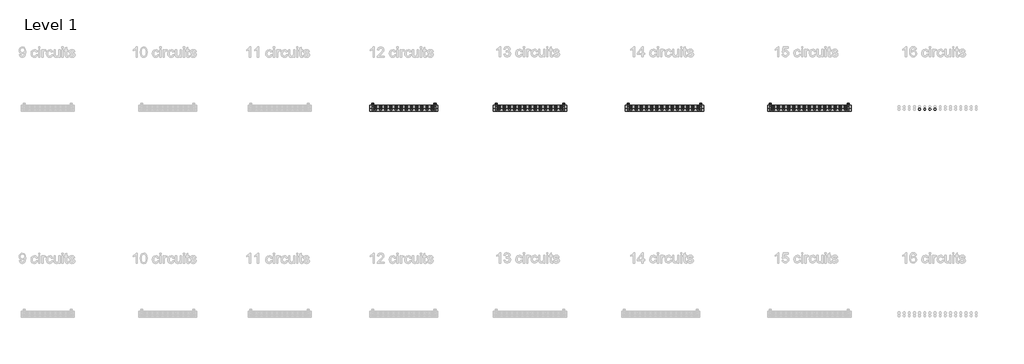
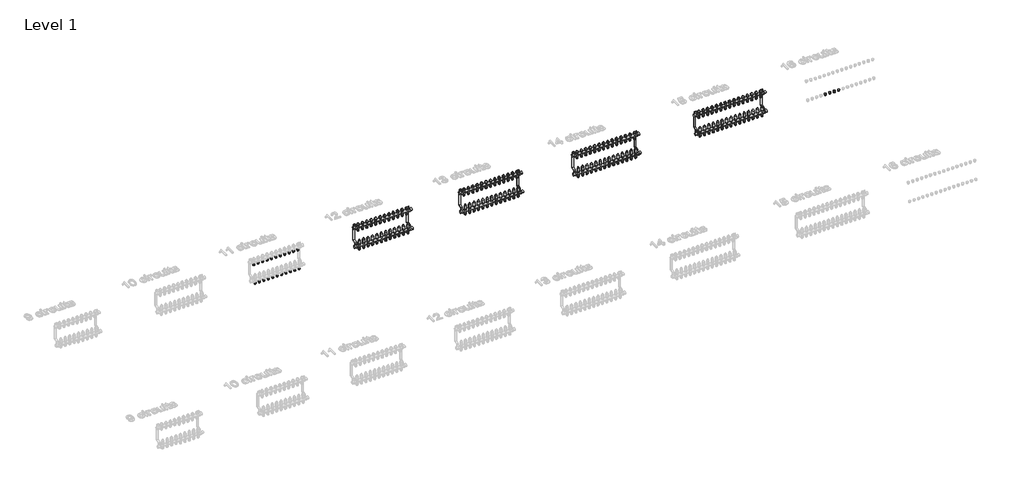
# One storey, part 4 of 13: 134 pipe fittings, 4 valves.
"""IFC4 building model written with IfcOpenShell, lengths in millimetres."""

from ifc_helpers import new_model, si_unit, origin, place, context, project, spatial, transform, mapped, element, save
from components import pipe_fitting_03c6499f, valve_b043caab, valve_d1a48dd4, valve_8c27288c, valve_323f5917, valve_2908c385, valve_c6b07a0e, valve_afcc5f03, valve_d5daf2db, valve_eef75e3c, valve_ba84b301, valve_6797e1c4, valve_e0eb0583, valve_b42ebe50, valve_7d993025, valve_5755080d, valve_f9b138b1

model = new_model("IFC4")

# Units and contexts
model_context = context("Model", 3, world=origin())
ifc_project = project(units=[si_unit("LENGTHUNIT", "METRE", prefix="MILLI")], contexts=[model_context])

# Site, building, storey
site = spatial("IfcSite", under=ifc_project)
building = spatial("IfcBuilding", under=site)
storey = spatial("IfcBuildingStorey", under=building, Name="Level 1", Elevation=0.0)

# Pipe fittings
placement = place(None, origin())
pipe_fitting_shape = pipe_fitting_03c6499f(model_context)
element("IfcPipeFitting", 1, ObjectType="Euroconus screwing for multilayer pipes - Manifold FT : Euroconus screwing for multilayer pipes - Manifold FT", at=placement, inside=storey, context=model_context, shape_type="MappedRepresentation", body=[
    mapped(pipe_fitting_shape, transform((10807.2354504, 1582.3227774, -37.0816103), x_axis=(0.0, 0.0, -1.0), y_axis=(0.0, 1.0000000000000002, 0.0), z_axis=(1.0000000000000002, 0.0, 0.0))),
])
element("IfcPipeFitting", 2, ObjectType="Euroconus screwing for multilayer pipes - Manifold FT : Euroconus screwing for multilayer pipes - Manifold FT", at=placement, inside=storey, context=model_context, shape_type="MappedRepresentation", body=[
    mapped(pipe_fitting_shape, transform((10757.2354504, 1582.3227774, -37.0816103), x_axis=(0.0, 0.0, -1.0), y_axis=(0.0, 1.0000000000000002, 0.0), z_axis=(1.0000000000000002, 0.0, 0.0))),
])
element("IfcPipeFitting", 3, ObjectType="Euroconus screwing for multilayer pipes - Manifold FT : Euroconus screwing for multilayer pipes - Manifold FT", at=placement, inside=storey, context=model_context, shape_type="MappedRepresentation", body=[
    mapped(pipe_fitting_shape, transform((10707.2354504, 1582.3227774, -37.0816103), x_axis=(0.0, 0.0, -1.0), y_axis=(0.0, 1.0000000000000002, 0.0), z_axis=(1.0000000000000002, 0.0, 0.0))),
])
element("IfcPipeFitting", 4, ObjectType="Euroconus screwing for multilayer pipes - Manifold FT : Euroconus screwing for multilayer pipes - Manifold FT", at=placement, inside=storey, context=model_context, shape_type="MappedRepresentation", body=[
    mapped(pipe_fitting_shape, transform((10657.2354504, 1582.3227774, -37.0816103), x_axis=(0.0, 0.0, -1.0), y_axis=(0.0, 1.0000000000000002, 0.0), z_axis=(1.0000000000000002, 0.0, 0.0))),
])
element("IfcPipeFitting", 5, ObjectType="Euroconus screwing for multilayer pipes - Manifold FT : Euroconus screwing for multilayer pipes - Manifold FT", at=placement, inside=storey, context=model_context, shape_type="MappedRepresentation", body=[
    mapped(pipe_fitting_shape, transform((10607.2354504, 1582.3227774, -37.0816103), x_axis=(0.0, 0.0, -1.0), y_axis=(0.0, 1.0000000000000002, 0.0), z_axis=(1.0000000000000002, 0.0, 0.0))),
])
element("IfcPipeFitting", 6, ObjectType="Euroconus screwing for multilayer pipes - Manifold FT : Euroconus screwing for multilayer pipes - Manifold FT", at=placement, inside=storey, context=model_context, shape_type="MappedRepresentation", body=[
    mapped(pipe_fitting_shape, transform((10557.2354504, 1582.3227774, -37.0816103), x_axis=(0.0, 0.0, -1.0), y_axis=(0.0, 1.0000000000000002, 0.0), z_axis=(1.0000000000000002, 0.0, 0.0))),
])
element("IfcPipeFitting", 7, ObjectType="Euroconus screwing for multilayer pipes - Manifold FT : Euroconus screwing for multilayer pipes - Manifold FT", at=placement, inside=storey, context=model_context, shape_type="MappedRepresentation", body=[
    mapped(pipe_fitting_shape, transform((10507.2354504, 1582.3227774, -37.0816103), x_axis=(0.0, 0.0, -1.0), y_axis=(0.0, 1.0000000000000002, 0.0), z_axis=(1.0000000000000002, 0.0, 0.0))),
])
element("IfcPipeFitting", 8, ObjectType="Euroconus screwing for multilayer pipes - Manifold FT : Euroconus screwing for multilayer pipes - Manifold FT", at=placement, inside=storey, context=model_context, shape_type="MappedRepresentation", body=[
    mapped(pipe_fitting_shape, transform((10457.2354504, 1582.3227774, -37.0816103), x_axis=(0.0, 0.0, -1.0), y_axis=(0.0, 1.0000000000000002, 0.0), z_axis=(1.0000000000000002, 0.0, 0.0))),
])
element("IfcPipeFitting", 9, ObjectType="Euroconus screwing for multilayer pipes - Manifold FT : Euroconus screwing for multilayer pipes - Manifold FT", at=placement, inside=storey, context=model_context, shape_type="MappedRepresentation", body=[
    mapped(pipe_fitting_shape, transform((10407.2354504, 1582.3227774, -37.0816103), x_axis=(0.0, 0.0, -1.0), y_axis=(0.0, 1.0000000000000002, 0.0), z_axis=(1.0000000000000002, 0.0, 0.0))),
])
element("IfcPipeFitting", 10, ObjectType="Euroconus screwing for multilayer pipes - Manifold FT : Euroconus screwing for multilayer pipes - Manifold FT", at=placement, inside=storey, context=model_context, shape_type="MappedRepresentation", body=[
    mapped(pipe_fitting_shape, transform((10857.2354504, 1582.3227774, -37.0816103), x_axis=(0.0, 0.0, -1.0), y_axis=(0.0, 1.0000000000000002, 0.0), z_axis=(1.0000000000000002, 0.0, 0.0))),
])
element("IfcPipeFitting", 11, ObjectType="Euroconus screwing for multilayer pipes - Manifold FT : Euroconus screwing for multilayer pipes - Manifold FT", at=placement, inside=storey, context=model_context, shape_type="MappedRepresentation", body=[
    mapped(pipe_fitting_shape, transform((10357.2354504, 1582.3227774, -37.0816103), x_axis=(0.0, 0.0, -1.0), y_axis=(0.0, 1.0000000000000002, 0.0), z_axis=(1.0000000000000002, 0.0, 0.0))),
])
element("IfcPipeFitting", 12, ObjectType="Euroconus screwing for multilayer pipes - Manifold FT : Euroconus screwing for multilayer pipes - Manifold FT", at=placement, inside=storey, context=model_context, shape_type="MappedRepresentation", body=[
    mapped(pipe_fitting_shape, transform((10807.2354504, 1607.3227774, 172.88733), x_axis=(0.0, 0.0, -1.0), y_axis=(0.0, 1.0000000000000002, 0.0), z_axis=(1.0000000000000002, 0.0, 0.0))),
])
element("IfcPipeFitting", 13, ObjectType="Euroconus screwing for multilayer pipes - Manifold FT : Euroconus screwing for multilayer pipes - Manifold FT", at=placement, inside=storey, context=model_context, shape_type="MappedRepresentation", body=[
    mapped(pipe_fitting_shape, transform((10757.2354504, 1607.3227774, 172.88733), x_axis=(0.0, 0.0, -1.0), y_axis=(0.0, 1.0000000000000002, 0.0), z_axis=(1.0000000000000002, 0.0, 0.0))),
])
element("IfcPipeFitting", 14, ObjectType="Euroconus screwing for multilayer pipes - Manifold FT : Euroconus screwing for multilayer pipes - Manifold FT", at=placement, inside=storey, context=model_context, shape_type="MappedRepresentation", body=[
    mapped(pipe_fitting_shape, transform((10707.2354504, 1607.3227774, 172.88733), x_axis=(0.0, 0.0, -1.0), y_axis=(0.0, 1.0000000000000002, 0.0), z_axis=(1.0000000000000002, 0.0, 0.0))),
])
element("IfcPipeFitting", 15, ObjectType="Euroconus screwing for multilayer pipes - Manifold FT : Euroconus screwing for multilayer pipes - Manifold FT", at=placement, inside=storey, context=model_context, shape_type="MappedRepresentation", body=[
    mapped(pipe_fitting_shape, transform((10657.2354504, 1607.3227774, 172.88733), x_axis=(0.0, 0.0, -1.0), y_axis=(0.0, 1.0000000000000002, 0.0), z_axis=(1.0000000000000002, 0.0, 0.0))),
])
element("IfcPipeFitting", 16, ObjectType="Euroconus screwing for multilayer pipes - Manifold FT : Euroconus screwing for multilayer pipes - Manifold FT", at=placement, inside=storey, context=model_context, shape_type="MappedRepresentation", body=[
    mapped(pipe_fitting_shape, transform((10607.2354504, 1607.3227774, 172.88733), x_axis=(0.0, 0.0, -1.0), y_axis=(0.0, 1.0000000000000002, 0.0), z_axis=(1.0000000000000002, 0.0, 0.0))),
])
element("IfcPipeFitting", 17, ObjectType="Euroconus screwing for multilayer pipes - Manifold FT : Euroconus screwing for multilayer pipes - Manifold FT", at=placement, inside=storey, context=model_context, shape_type="MappedRepresentation", body=[
    mapped(pipe_fitting_shape, transform((10557.2354504, 1607.3227774, 172.88733), x_axis=(0.0, 0.0, -1.0), y_axis=(0.0, 1.0000000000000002, 0.0), z_axis=(1.0000000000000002, 0.0, 0.0))),
])
element("IfcPipeFitting", 18, ObjectType="Euroconus screwing for multilayer pipes - Manifold FT : Euroconus screwing for multilayer pipes - Manifold FT", at=placement, inside=storey, context=model_context, shape_type="MappedRepresentation", body=[
    mapped(pipe_fitting_shape, transform((10507.2354504, 1607.3227774, 172.88733), x_axis=(0.0, 0.0, -1.0), y_axis=(0.0, 1.0000000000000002, 0.0), z_axis=(1.0000000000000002, 0.0, 0.0))),
])
element("IfcPipeFitting", 19, ObjectType="Euroconus screwing for multilayer pipes - Manifold FT : Euroconus screwing for multilayer pipes - Manifold FT", at=placement, inside=storey, context=model_context, shape_type="MappedRepresentation", body=[
    mapped(pipe_fitting_shape, transform((10457.2354504, 1607.3227774, 172.88733), x_axis=(0.0, 0.0, -1.0), y_axis=(0.0, 1.0000000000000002, 0.0), z_axis=(1.0000000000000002, 0.0, 0.0))),
])
element("IfcPipeFitting", 20, ObjectType="Euroconus screwing for multilayer pipes - Manifold FT : Euroconus screwing for multilayer pipes - Manifold FT", at=placement, inside=storey, context=model_context, shape_type="MappedRepresentation", body=[
    mapped(pipe_fitting_shape, transform((10407.2354504, 1607.3227774, 172.88733), x_axis=(0.0, 0.0, -1.0), y_axis=(0.0, 1.0000000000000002, 0.0), z_axis=(1.0000000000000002, 0.0, 0.0))),
])
element("IfcPipeFitting", 21, ObjectType="Euroconus screwing for multilayer pipes - Manifold FT : Euroconus screwing for multilayer pipes - Manifold FT", at=placement, inside=storey, context=model_context, shape_type="MappedRepresentation", body=[
    mapped(pipe_fitting_shape, transform((10857.2354504, 1607.3227774, 172.88733), x_axis=(0.0, 0.0, -1.0), y_axis=(0.0, 1.0000000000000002, 0.0), z_axis=(1.0000000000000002, 0.0, 0.0))),
])
element("IfcPipeFitting", 22, ObjectType="Euroconus screwing for multilayer pipes - Manifold FT : Euroconus screwing for multilayer pipes - Manifold FT", at=placement, inside=storey, context=model_context, shape_type="MappedRepresentation", body=[
    mapped(pipe_fitting_shape, transform((10357.2354504, 1607.3227774, 172.88733), x_axis=(0.0, 0.0, -1.0), y_axis=(0.0, 1.0000000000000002, 0.0), z_axis=(1.0000000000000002, 0.0, 0.0))),
])
element("IfcPipeFitting", 23, ObjectType="Euroconus screwing for multilayer pipes - Manifold FT : Euroconus screwing for multilayer pipes - Manifold FT", at=placement, inside=storey, context=model_context, shape_type="MappedRepresentation", body=[
    mapped(pipe_fitting_shape, transform((12037.2354504, 1582.3227774, -37.0816103), x_axis=(0.0, 0.0, -1.0), y_axis=(0.0, 1.0000000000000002, 0.0), z_axis=(1.0000000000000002, 0.0, 0.0))),
])
element("IfcPipeFitting", 24, ObjectType="Euroconus screwing for multilayer pipes - Manifold FT : Euroconus screwing for multilayer pipes - Manifold FT", at=placement, inside=storey, context=model_context, shape_type="MappedRepresentation", body=[
    mapped(pipe_fitting_shape, transform((11987.2354504, 1582.3227774, -37.0816103), x_axis=(0.0, 0.0, -1.0), y_axis=(0.0, 1.0000000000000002, 0.0), z_axis=(1.0000000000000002, 0.0, 0.0))),
])
element("IfcPipeFitting", 25, ObjectType="Euroconus screwing for multilayer pipes - Manifold FT : Euroconus screwing for multilayer pipes - Manifold FT", at=placement, inside=storey, context=model_context, shape_type="MappedRepresentation", body=[
    mapped(pipe_fitting_shape, transform((11937.2354504, 1582.3227774, -37.0816103), x_axis=(0.0, 0.0, -1.0), y_axis=(0.0, 1.0000000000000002, 0.0), z_axis=(1.0000000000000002, 0.0, 0.0))),
])
element("IfcPipeFitting", 26, ObjectType="Euroconus screwing for multilayer pipes - Manifold FT : Euroconus screwing for multilayer pipes - Manifold FT", at=placement, inside=storey, context=model_context, shape_type="MappedRepresentation", body=[
    mapped(pipe_fitting_shape, transform((11887.2354504, 1582.3227774, -37.0816103), x_axis=(0.0, 0.0, -1.0), y_axis=(0.0, 1.0000000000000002, 0.0), z_axis=(1.0000000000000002, 0.0, 0.0))),
])
element("IfcPipeFitting", 27, ObjectType="Euroconus screwing for multilayer pipes - Manifold FT : Euroconus screwing for multilayer pipes - Manifold FT", at=placement, inside=storey, context=model_context, shape_type="MappedRepresentation", body=[
    mapped(pipe_fitting_shape, transform((11837.2354504, 1582.3227774, -37.0816103), x_axis=(0.0, 0.0, -1.0), y_axis=(0.0, 1.0000000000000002, 0.0), z_axis=(1.0000000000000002, 0.0, 0.0))),
])
element("IfcPipeFitting", 28, ObjectType="Euroconus screwing for multilayer pipes - Manifold FT : Euroconus screwing for multilayer pipes - Manifold FT", at=placement, inside=storey, context=model_context, shape_type="MappedRepresentation", body=[
    mapped(pipe_fitting_shape, transform((11787.2354504, 1582.3227774, -37.0816103), x_axis=(0.0, 0.0, -1.0), y_axis=(0.0, 1.0000000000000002, 0.0), z_axis=(1.0000000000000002, 0.0, 0.0))),
])
element("IfcPipeFitting", 29, ObjectType="Euroconus screwing for multilayer pipes - Manifold FT : Euroconus screwing for multilayer pipes - Manifold FT", at=placement, inside=storey, context=model_context, shape_type="MappedRepresentation", body=[
    mapped(pipe_fitting_shape, transform((11737.2354504, 1582.3227774, -37.0816103), x_axis=(0.0, 0.0, -1.0), y_axis=(0.0, 1.0000000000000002, 0.0), z_axis=(1.0000000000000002, 0.0, 0.0))),
])
element("IfcPipeFitting", 30, ObjectType="Euroconus screwing for multilayer pipes - Manifold FT : Euroconus screwing for multilayer pipes - Manifold FT", at=placement, inside=storey, context=model_context, shape_type="MappedRepresentation", body=[
    mapped(pipe_fitting_shape, transform((11687.2354504, 1582.3227774, -37.0816103), x_axis=(0.0, 0.0, -1.0), y_axis=(0.0, 1.0000000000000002, 0.0), z_axis=(1.0000000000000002, 0.0, 0.0))),
])
element("IfcPipeFitting", 31, ObjectType="Euroconus screwing for multilayer pipes - Manifold FT : Euroconus screwing for multilayer pipes - Manifold FT", at=placement, inside=storey, context=model_context, shape_type="MappedRepresentation", body=[
    mapped(pipe_fitting_shape, transform((11637.2354504, 1582.3227774, -37.0816103), x_axis=(0.0, 0.0, -1.0), y_axis=(0.0, 1.0000000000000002, 0.0), z_axis=(1.0000000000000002, 0.0, 0.0))),
])
element("IfcPipeFitting", 32, ObjectType="Euroconus screwing for multilayer pipes - Manifold FT : Euroconus screwing for multilayer pipes - Manifold FT", at=placement, inside=storey, context=model_context, shape_type="MappedRepresentation", body=[
    mapped(pipe_fitting_shape, transform((11587.2354504, 1582.3227774, -37.0816103), x_axis=(0.0, 0.0, -1.0), y_axis=(0.0, 1.0000000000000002, 0.0), z_axis=(1.0000000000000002, 0.0, 0.0))),
])
element("IfcPipeFitting", 33, ObjectType="Euroconus screwing for multilayer pipes - Manifold FT : Euroconus screwing for multilayer pipes - Manifold FT", at=placement, inside=storey, context=model_context, shape_type="MappedRepresentation", body=[
    mapped(pipe_fitting_shape, transform((12087.2354504, 1582.3227774, -37.0816103), x_axis=(0.0, 0.0, -1.0), y_axis=(0.0, 1.0000000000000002, 0.0), z_axis=(1.0000000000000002, 0.0, 0.0))),
])
element("IfcPipeFitting", 34, ObjectType="Euroconus screwing for multilayer pipes - Manifold FT : Euroconus screwing for multilayer pipes - Manifold FT", at=placement, inside=storey, context=model_context, shape_type="MappedRepresentation", body=[
    mapped(pipe_fitting_shape, transform((11537.2354504, 1582.3227774, -37.0816103), x_axis=(0.0, 0.0, -1.0), y_axis=(0.0, 1.0000000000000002, 0.0), z_axis=(1.0000000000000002, 0.0, 0.0))),
])
element("IfcPipeFitting", 35, ObjectType="Euroconus screwing for multilayer pipes - Manifold FT : Euroconus screwing for multilayer pipes - Manifold FT", at=placement, inside=storey, context=model_context, shape_type="MappedRepresentation", body=[
    mapped(pipe_fitting_shape, transform((12037.2354504, 1607.3227774, 172.88733), x_axis=(0.0, 0.0, -1.0), y_axis=(0.0, 1.0000000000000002, 0.0), z_axis=(1.0000000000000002, 0.0, 0.0))),
])
element("IfcPipeFitting", 36, ObjectType="Euroconus screwing for multilayer pipes - Manifold FT : Euroconus screwing for multilayer pipes - Manifold FT", at=placement, inside=storey, context=model_context, shape_type="MappedRepresentation", body=[
    mapped(pipe_fitting_shape, transform((11987.2354504, 1607.3227774, 172.88733), x_axis=(0.0, 0.0, -1.0), y_axis=(0.0, 1.0000000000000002, 0.0), z_axis=(1.0000000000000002, 0.0, 0.0))),
])
element("IfcPipeFitting", 37, ObjectType="Euroconus screwing for multilayer pipes - Manifold FT : Euroconus screwing for multilayer pipes - Manifold FT", at=placement, inside=storey, context=model_context, shape_type="MappedRepresentation", body=[
    mapped(pipe_fitting_shape, transform((11937.2354504, 1607.3227774, 172.88733), x_axis=(0.0, 0.0, -1.0), y_axis=(0.0, 1.0000000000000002, 0.0), z_axis=(1.0000000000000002, 0.0, 0.0))),
])
element("IfcPipeFitting", 38, ObjectType="Euroconus screwing for multilayer pipes - Manifold FT : Euroconus screwing for multilayer pipes - Manifold FT", at=placement, inside=storey, context=model_context, shape_type="MappedRepresentation", body=[
    mapped(pipe_fitting_shape, transform((11887.2354504, 1607.3227774, 172.88733), x_axis=(0.0, 0.0, -1.0), y_axis=(0.0, 1.0000000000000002, 0.0), z_axis=(1.0000000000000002, 0.0, 0.0))),
])
element("IfcPipeFitting", 39, ObjectType="Euroconus screwing for multilayer pipes - Manifold FT : Euroconus screwing for multilayer pipes - Manifold FT", at=placement, inside=storey, context=model_context, shape_type="MappedRepresentation", body=[
    mapped(pipe_fitting_shape, transform((11837.2354504, 1607.3227774, 172.88733), x_axis=(0.0, 0.0, -1.0), y_axis=(0.0, 1.0000000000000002, 0.0), z_axis=(1.0000000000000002, 0.0, 0.0))),
])
element("IfcPipeFitting", 40, ObjectType="Euroconus screwing for multilayer pipes - Manifold FT : Euroconus screwing for multilayer pipes - Manifold FT", at=placement, inside=storey, context=model_context, shape_type="MappedRepresentation", body=[
    mapped(pipe_fitting_shape, transform((11787.2354504, 1607.3227774, 172.88733), x_axis=(0.0, 0.0, -1.0), y_axis=(0.0, 1.0000000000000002, 0.0), z_axis=(1.0000000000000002, 0.0, 0.0))),
])
element("IfcPipeFitting", 41, ObjectType="Euroconus screwing for multilayer pipes - Manifold FT : Euroconus screwing for multilayer pipes - Manifold FT", at=placement, inside=storey, context=model_context, shape_type="MappedRepresentation", body=[
    mapped(pipe_fitting_shape, transform((11737.2354504, 1607.3227774, 172.88733), x_axis=(0.0, 0.0, -1.0), y_axis=(0.0, 1.0000000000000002, 0.0), z_axis=(1.0000000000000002, 0.0, 0.0))),
])
element("IfcPipeFitting", 42, ObjectType="Euroconus screwing for multilayer pipes - Manifold FT : Euroconus screwing for multilayer pipes - Manifold FT", at=placement, inside=storey, context=model_context, shape_type="MappedRepresentation", body=[
    mapped(pipe_fitting_shape, transform((11687.2354504, 1607.3227774, 172.88733), x_axis=(0.0, 0.0, -1.0), y_axis=(0.0, 1.0000000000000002, 0.0), z_axis=(1.0000000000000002, 0.0, 0.0))),
])
element("IfcPipeFitting", 43, ObjectType="Euroconus screwing for multilayer pipes - Manifold FT : Euroconus screwing for multilayer pipes - Manifold FT", at=placement, inside=storey, context=model_context, shape_type="MappedRepresentation", body=[
    mapped(pipe_fitting_shape, transform((11637.2354504, 1607.3227774, 172.88733), x_axis=(0.0, 0.0, -1.0), y_axis=(0.0, 1.0000000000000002, 0.0), z_axis=(1.0000000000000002, 0.0, 0.0))),
])
element("IfcPipeFitting", 44, ObjectType="Euroconus screwing for multilayer pipes - Manifold FT : Euroconus screwing for multilayer pipes - Manifold FT", at=placement, inside=storey, context=model_context, shape_type="MappedRepresentation", body=[
    mapped(pipe_fitting_shape, transform((11587.2354504, 1607.3227774, 172.88733), x_axis=(0.0, 0.0, -1.0), y_axis=(0.0, 1.0000000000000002, 0.0), z_axis=(1.0000000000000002, 0.0, 0.0))),
])
element("IfcPipeFitting", 45, ObjectType="Euroconus screwing for multilayer pipes - Manifold FT : Euroconus screwing for multilayer pipes - Manifold FT", at=placement, inside=storey, context=model_context, shape_type="MappedRepresentation", body=[
    mapped(pipe_fitting_shape, transform((12087.2354504, 1607.3227774, 172.88733), x_axis=(0.0, 0.0, -1.0), y_axis=(0.0, 1.0000000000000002, 0.0), z_axis=(1.0000000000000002, 0.0, 0.0))),
])
element("IfcPipeFitting", 46, ObjectType="Euroconus screwing for multilayer pipes - Manifold FT : Euroconus screwing for multilayer pipes - Manifold FT", at=placement, inside=storey, context=model_context, shape_type="MappedRepresentation", body=[
    mapped(pipe_fitting_shape, transform((11537.2354504, 1607.3227774, 172.88733), x_axis=(0.0, 0.0, -1.0), y_axis=(0.0, 1.0000000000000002, 0.0), z_axis=(1.0000000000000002, 0.0, 0.0))),
])
element("IfcPipeFitting", 47, ObjectType="Euroconus screwing for multilayer pipes - Manifold FT : Euroconus screwing for multilayer pipes - Manifold FT", at=placement, inside=storey, context=model_context, shape_type="MappedRepresentation", body=[
    mapped(pipe_fitting_shape, transform((13287.2354504, 1582.3227774, -37.0816103), x_axis=(0.0, 0.0, -1.0), y_axis=(0.0, 1.0000000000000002, 0.0), z_axis=(1.0000000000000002, 0.0, 0.0))),
])
element("IfcPipeFitting", 48, ObjectType="Euroconus screwing for multilayer pipes - Manifold FT : Euroconus screwing for multilayer pipes - Manifold FT", at=placement, inside=storey, context=model_context, shape_type="MappedRepresentation", body=[
    mapped(pipe_fitting_shape, transform((13237.2354504, 1582.3227774, -37.0816103), x_axis=(0.0, 0.0, -1.0), y_axis=(0.0, 1.0000000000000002, 0.0), z_axis=(1.0000000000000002, 0.0, 0.0))),
])
element("IfcPipeFitting", 49, ObjectType="Euroconus screwing for multilayer pipes - Manifold FT : Euroconus screwing for multilayer pipes - Manifold FT", at=placement, inside=storey, context=model_context, shape_type="MappedRepresentation", body=[
    mapped(pipe_fitting_shape, transform((13187.2354504, 1582.3227774, -37.0816103), x_axis=(0.0, 0.0, -1.0), y_axis=(0.0, 1.0000000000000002, 0.0), z_axis=(1.0000000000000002, 0.0, 0.0))),
])
element("IfcPipeFitting", 50, ObjectType="Euroconus screwing for multilayer pipes - Manifold FT : Euroconus screwing for multilayer pipes - Manifold FT", at=placement, inside=storey, context=model_context, shape_type="MappedRepresentation", body=[
    mapped(pipe_fitting_shape, transform((13137.2354504, 1582.3227774, -37.0816103), x_axis=(0.0, 0.0, -1.0), y_axis=(0.0, 1.0000000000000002, 0.0), z_axis=(1.0000000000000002, 0.0, 0.0))),
])
element("IfcPipeFitting", 51, ObjectType="Euroconus screwing for multilayer pipes - Manifold FT : Euroconus screwing for multilayer pipes - Manifold FT", at=placement, inside=storey, context=model_context, shape_type="MappedRepresentation", body=[
    mapped(pipe_fitting_shape, transform((13087.2354504, 1582.3227774, -37.0816103), x_axis=(0.0, 0.0, -1.0), y_axis=(0.0, 1.0000000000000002, 0.0), z_axis=(1.0000000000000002, 0.0, 0.0))),
])
element("IfcPipeFitting", 52, ObjectType="Euroconus screwing for multilayer pipes - Manifold FT : Euroconus screwing for multilayer pipes - Manifold FT", at=placement, inside=storey, context=model_context, shape_type="MappedRepresentation", body=[
    mapped(pipe_fitting_shape, transform((13037.2354504, 1582.3227774, -37.0816103), x_axis=(0.0, 0.0, -1.0), y_axis=(0.0, 1.0000000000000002, 0.0), z_axis=(1.0000000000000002, 0.0, 0.0))),
])
element("IfcPipeFitting", 53, ObjectType="Euroconus screwing for multilayer pipes - Manifold FT : Euroconus screwing for multilayer pipes - Manifold FT", at=placement, inside=storey, context=model_context, shape_type="MappedRepresentation", body=[
    mapped(pipe_fitting_shape, transform((12987.2354504, 1582.3227774, -37.0816103), x_axis=(0.0, 0.0, -1.0), y_axis=(0.0, 1.0000000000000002, 0.0), z_axis=(1.0000000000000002, 0.0, 0.0))),
])
element("IfcPipeFitting", 54, ObjectType="Euroconus screwing for multilayer pipes - Manifold FT : Euroconus screwing for multilayer pipes - Manifold FT", at=placement, inside=storey, context=model_context, shape_type="MappedRepresentation", body=[
    mapped(pipe_fitting_shape, transform((12937.2354504, 1582.3227774, -37.0816103), x_axis=(0.0, 0.0, -1.0), y_axis=(0.0, 1.0000000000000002, 0.0), z_axis=(1.0000000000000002, 0.0, 0.0))),
])
element("IfcPipeFitting", 55, ObjectType="Euroconus screwing for multilayer pipes - Manifold FT : Euroconus screwing for multilayer pipes - Manifold FT", at=placement, inside=storey, context=model_context, shape_type="MappedRepresentation", body=[
    mapped(pipe_fitting_shape, transform((12887.2354504, 1582.3227774, -37.0816103), x_axis=(0.0, 0.0, -1.0), y_axis=(0.0, 1.0000000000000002, 0.0), z_axis=(1.0000000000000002, 0.0, 0.0))),
])
element("IfcPipeFitting", 56, ObjectType="Euroconus screwing for multilayer pipes - Manifold FT : Euroconus screwing for multilayer pipes - Manifold FT", at=placement, inside=storey, context=model_context, shape_type="MappedRepresentation", body=[
    mapped(pipe_fitting_shape, transform((12837.2354504, 1582.3227774, -37.0816103), x_axis=(0.0, 0.0, -1.0), y_axis=(0.0, 1.0000000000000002, 0.0), z_axis=(1.0000000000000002, 0.0, 0.0))),
])
element("IfcPipeFitting", 57, ObjectType="Euroconus screwing for multilayer pipes - Manifold FT : Euroconus screwing for multilayer pipes - Manifold FT", at=placement, inside=storey, context=model_context, shape_type="MappedRepresentation", body=[
    mapped(pipe_fitting_shape, transform((12787.2354504, 1582.3227774, -37.0816103), x_axis=(0.0, 0.0, -1.0), y_axis=(0.0, 1.0000000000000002, 0.0), z_axis=(1.0000000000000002, 0.0, 0.0))),
])
element("IfcPipeFitting", 58, ObjectType="Euroconus screwing for multilayer pipes - Manifold FT : Euroconus screwing for multilayer pipes - Manifold FT", at=placement, inside=storey, context=model_context, shape_type="MappedRepresentation", body=[
    mapped(pipe_fitting_shape, transform((13337.2354504, 1582.3227774, -37.0816103), x_axis=(0.0, 0.0, -1.0), y_axis=(0.0, 1.0000000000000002, 0.0), z_axis=(1.0000000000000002, 0.0, 0.0))),
])
element("IfcPipeFitting", 59, ObjectType="Euroconus screwing for multilayer pipes - Manifold FT : Euroconus screwing for multilayer pipes - Manifold FT", at=placement, inside=storey, context=model_context, shape_type="MappedRepresentation", body=[
    mapped(pipe_fitting_shape, transform((12737.2354504, 1582.3227774, -37.0816103), x_axis=(0.0, 0.0, -1.0), y_axis=(0.0, 1.0000000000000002, 0.0), z_axis=(1.0000000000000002, 0.0, 0.0))),
])
element("IfcPipeFitting", 60, ObjectType="Euroconus screwing for multilayer pipes - Manifold FT : Euroconus screwing for multilayer pipes - Manifold FT", at=placement, inside=storey, context=model_context, shape_type="MappedRepresentation", body=[
    mapped(pipe_fitting_shape, transform((13287.2354504, 1607.3227774, 172.88733), x_axis=(0.0, 0.0, -1.0), y_axis=(0.0, 1.0000000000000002, 0.0), z_axis=(1.0000000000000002, 0.0, 0.0))),
])
element("IfcPipeFitting", 61, ObjectType="Euroconus screwing for multilayer pipes - Manifold FT : Euroconus screwing for multilayer pipes - Manifold FT", at=placement, inside=storey, context=model_context, shape_type="MappedRepresentation", body=[
    mapped(pipe_fitting_shape, transform((13237.2354504, 1607.3227774, 172.88733), x_axis=(0.0, 0.0, -1.0), y_axis=(0.0, 1.0000000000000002, 0.0), z_axis=(1.0000000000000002, 0.0, 0.0))),
])
element("IfcPipeFitting", 62, ObjectType="Euroconus screwing for multilayer pipes - Manifold FT : Euroconus screwing for multilayer pipes - Manifold FT", at=placement, inside=storey, context=model_context, shape_type="MappedRepresentation", body=[
    mapped(pipe_fitting_shape, transform((13187.2354504, 1607.3227774, 172.88733), x_axis=(0.0, 0.0, -1.0), y_axis=(0.0, 1.0000000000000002, 0.0), z_axis=(1.0000000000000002, 0.0, 0.0))),
])
element("IfcPipeFitting", 63, ObjectType="Euroconus screwing for multilayer pipes - Manifold FT : Euroconus screwing for multilayer pipes - Manifold FT", at=placement, inside=storey, context=model_context, shape_type="MappedRepresentation", body=[
    mapped(pipe_fitting_shape, transform((13137.2354504, 1607.3227774, 172.88733), x_axis=(0.0, 0.0, -1.0), y_axis=(0.0, 1.0000000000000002, 0.0), z_axis=(1.0000000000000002, 0.0, 0.0))),
])
element("IfcPipeFitting", 64, ObjectType="Euroconus screwing for multilayer pipes - Manifold FT : Euroconus screwing for multilayer pipes - Manifold FT", at=placement, inside=storey, context=model_context, shape_type="MappedRepresentation", body=[
    mapped(pipe_fitting_shape, transform((13087.2354504, 1607.3227774, 172.88733), x_axis=(0.0, 0.0, -1.0), y_axis=(0.0, 1.0000000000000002, 0.0), z_axis=(1.0000000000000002, 0.0, 0.0))),
])
element("IfcPipeFitting", 65, ObjectType="Euroconus screwing for multilayer pipes - Manifold FT : Euroconus screwing for multilayer pipes - Manifold FT", at=placement, inside=storey, context=model_context, shape_type="MappedRepresentation", body=[
    mapped(pipe_fitting_shape, transform((13037.2354504, 1607.3227774, 172.88733), x_axis=(0.0, 0.0, -1.0), y_axis=(0.0, 1.0000000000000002, 0.0), z_axis=(1.0000000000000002, 0.0, 0.0))),
])
element("IfcPipeFitting", 66, ObjectType="Euroconus screwing for multilayer pipes - Manifold FT : Euroconus screwing for multilayer pipes - Manifold FT", at=placement, inside=storey, context=model_context, shape_type="MappedRepresentation", body=[
    mapped(pipe_fitting_shape, transform((12987.2354504, 1607.3227774, 172.88733), x_axis=(0.0, 0.0, -1.0), y_axis=(0.0, 1.0000000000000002, 0.0), z_axis=(1.0000000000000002, 0.0, 0.0))),
])
element("IfcPipeFitting", 67, ObjectType="Euroconus screwing for multilayer pipes - Manifold FT : Euroconus screwing for multilayer pipes - Manifold FT", at=placement, inside=storey, context=model_context, shape_type="MappedRepresentation", body=[
    mapped(pipe_fitting_shape, transform((12937.2354504, 1607.3227774, 172.88733), x_axis=(0.0, 0.0, -1.0), y_axis=(0.0, 1.0000000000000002, 0.0), z_axis=(1.0000000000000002, 0.0, 0.0))),
])
element("IfcPipeFitting", 68, ObjectType="Euroconus screwing for multilayer pipes - Manifold FT : Euroconus screwing for multilayer pipes - Manifold FT", at=placement, inside=storey, context=model_context, shape_type="MappedRepresentation", body=[
    mapped(pipe_fitting_shape, transform((12887.2354504, 1607.3227774, 172.88733), x_axis=(0.0, 0.0, -1.0), y_axis=(0.0, 1.0000000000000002, 0.0), z_axis=(1.0000000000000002, 0.0, 0.0))),
])
element("IfcPipeFitting", 69, ObjectType="Euroconus screwing for multilayer pipes - Manifold FT : Euroconus screwing for multilayer pipes - Manifold FT", at=placement, inside=storey, context=model_context, shape_type="MappedRepresentation", body=[
    mapped(pipe_fitting_shape, transform((12837.2354504, 1607.3227774, 172.88733), x_axis=(0.0, 0.0, -1.0), y_axis=(0.0, 1.0000000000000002, 0.0), z_axis=(1.0000000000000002, 0.0, 0.0))),
])
element("IfcPipeFitting", 70, ObjectType="Euroconus screwing for multilayer pipes - Manifold FT : Euroconus screwing for multilayer pipes - Manifold FT", at=placement, inside=storey, context=model_context, shape_type="MappedRepresentation", body=[
    mapped(pipe_fitting_shape, transform((12787.2354504, 1607.3227774, 172.88733), x_axis=(0.0, 0.0, -1.0), y_axis=(0.0, 1.0000000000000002, 0.0), z_axis=(1.0000000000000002, 0.0, 0.0))),
])
element("IfcPipeFitting", 71, ObjectType="Euroconus screwing for multilayer pipes - Manifold FT : Euroconus screwing for multilayer pipes - Manifold FT", at=placement, inside=storey, context=model_context, shape_type="MappedRepresentation", body=[
    mapped(pipe_fitting_shape, transform((13337.2354504, 1607.3227774, 172.88733), x_axis=(0.0, 0.0, -1.0), y_axis=(0.0, 1.0000000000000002, 0.0), z_axis=(1.0000000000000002, 0.0, 0.0))),
])
element("IfcPipeFitting", 72, ObjectType="Euroconus screwing for multilayer pipes - Manifold FT : Euroconus screwing for multilayer pipes - Manifold FT", at=placement, inside=storey, context=model_context, shape_type="MappedRepresentation", body=[
    mapped(pipe_fitting_shape, transform((12737.2354504, 1607.3227774, 172.88733), x_axis=(0.0, 0.0, -1.0), y_axis=(0.0, 1.0000000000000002, 0.0), z_axis=(1.0000000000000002, 0.0, 0.0))),
])
element("IfcPipeFitting", 73, ObjectType="Euroconus screwing for multilayer pipes - Manifold FT : Euroconus screwing for multilayer pipes - Manifold FT", at=placement, inside=storey, context=model_context, shape_type="MappedRepresentation", body=[
    mapped(pipe_fitting_shape, transform((14617.2354504, 1582.3227774, -37.0816103), x_axis=(0.0, 0.0, -1.0), y_axis=(0.0, 1.0000000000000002, 0.0), z_axis=(1.0000000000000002, 0.0, 0.0))),
])
element("IfcPipeFitting", 74, ObjectType="Euroconus screwing for multilayer pipes - Manifold FT : Euroconus screwing for multilayer pipes - Manifold FT", at=placement, inside=storey, context=model_context, shape_type="MappedRepresentation", body=[
    mapped(pipe_fitting_shape, transform((14567.2354504, 1582.3227774, -37.0816103), x_axis=(0.0, 0.0, -1.0), y_axis=(0.0, 1.0000000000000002, 0.0), z_axis=(1.0000000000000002, 0.0, 0.0))),
])
element("IfcPipeFitting", 75, ObjectType="Euroconus screwing for multilayer pipes - Manifold FT : Euroconus screwing for multilayer pipes - Manifold FT", at=placement, inside=storey, context=model_context, shape_type="MappedRepresentation", body=[
    mapped(pipe_fitting_shape, transform((14517.2354504, 1582.3227774, -37.0816103), x_axis=(0.0, 0.0, -1.0), y_axis=(0.0, 1.0000000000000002, 0.0), z_axis=(1.0000000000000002, 0.0, 0.0))),
])
element("IfcPipeFitting", 76, ObjectType="Euroconus screwing for multilayer pipes - Manifold FT : Euroconus screwing for multilayer pipes - Manifold FT", at=placement, inside=storey, context=model_context, shape_type="MappedRepresentation", body=[
    mapped(pipe_fitting_shape, transform((14467.2354504, 1582.3227774, -37.0816103), x_axis=(0.0, 0.0, -1.0), y_axis=(0.0, 1.0000000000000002, 0.0), z_axis=(1.0000000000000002, 0.0, 0.0))),
])
element("IfcPipeFitting", 77, ObjectType="Euroconus screwing for multilayer pipes - Manifold FT : Euroconus screwing for multilayer pipes - Manifold FT", at=placement, inside=storey, context=model_context, shape_type="MappedRepresentation", body=[
    mapped(pipe_fitting_shape, transform((14417.2354504, 1582.3227774, -37.0816103), x_axis=(0.0, 0.0, -1.0), y_axis=(0.0, 1.0000000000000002, 0.0), z_axis=(1.0000000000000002, 0.0, 0.0))),
])
element("IfcPipeFitting", 78, ObjectType="Euroconus screwing for multilayer pipes - Manifold FT : Euroconus screwing for multilayer pipes - Manifold FT", at=placement, inside=storey, context=model_context, shape_type="MappedRepresentation", body=[
    mapped(pipe_fitting_shape, transform((14367.2354504, 1582.3227774, -37.0816103), x_axis=(0.0, 0.0, -1.0), y_axis=(0.0, 1.0000000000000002, 0.0), z_axis=(1.0000000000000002, 0.0, 0.0))),
])
element("IfcPipeFitting", 79, ObjectType="Euroconus screwing for multilayer pipes - Manifold FT : Euroconus screwing for multilayer pipes - Manifold FT", at=placement, inside=storey, context=model_context, shape_type="MappedRepresentation", body=[
    mapped(pipe_fitting_shape, transform((14317.2354504, 1582.3227774, -37.0816103), x_axis=(0.0, 0.0, -1.0), y_axis=(0.0, 1.0000000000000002, 0.0), z_axis=(1.0000000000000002, 0.0, 0.0))),
])
element("IfcPipeFitting", 80, ObjectType="Euroconus screwing for multilayer pipes - Manifold FT : Euroconus screwing for multilayer pipes - Manifold FT", at=placement, inside=storey, context=model_context, shape_type="MappedRepresentation", body=[
    mapped(pipe_fitting_shape, transform((14267.2354504, 1582.3227774, -37.0816103), x_axis=(0.0, 0.0, -1.0), y_axis=(0.0, 1.0000000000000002, 0.0), z_axis=(1.0000000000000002, 0.0, 0.0))),
])
element("IfcPipeFitting", 81, ObjectType="Euroconus screwing for multilayer pipes - Manifold FT : Euroconus screwing for multilayer pipes - Manifold FT", at=placement, inside=storey, context=model_context, shape_type="MappedRepresentation", body=[
    mapped(pipe_fitting_shape, transform((14217.2354504, 1582.3227774, -37.0816103), x_axis=(0.0, 0.0, -1.0), y_axis=(0.0, 1.0000000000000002, 0.0), z_axis=(1.0000000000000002, 0.0, 0.0))),
])
element("IfcPipeFitting", 82, ObjectType="Euroconus screwing for multilayer pipes - Manifold FT : Euroconus screwing for multilayer pipes - Manifold FT", at=placement, inside=storey, context=model_context, shape_type="MappedRepresentation", body=[
    mapped(pipe_fitting_shape, transform((14167.2354504, 1582.3227774, -37.0816103), x_axis=(0.0, 0.0, -1.0), y_axis=(0.0, 1.0000000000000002, 0.0), z_axis=(1.0000000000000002, 0.0, 0.0))),
])
element("IfcPipeFitting", 83, ObjectType="Euroconus screwing for multilayer pipes - Manifold FT : Euroconus screwing for multilayer pipes - Manifold FT", at=placement, inside=storey, context=model_context, shape_type="MappedRepresentation", body=[
    mapped(pipe_fitting_shape, transform((14117.2354504, 1582.3227774, -37.0816103), x_axis=(0.0, 0.0, -1.0), y_axis=(0.0, 1.0000000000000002, 0.0), z_axis=(1.0000000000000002, 0.0, 0.0))),
])
element("IfcPipeFitting", 84, ObjectType="Euroconus screwing for multilayer pipes - Manifold FT : Euroconus screwing for multilayer pipes - Manifold FT", at=placement, inside=storey, context=model_context, shape_type="MappedRepresentation", body=[
    mapped(pipe_fitting_shape, transform((14067.2354504, 1582.3227774, -37.0816103), x_axis=(0.0, 0.0, -1.0), y_axis=(0.0, 1.0000000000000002, 0.0), z_axis=(1.0000000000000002, 0.0, 0.0))),
])
element("IfcPipeFitting", 85, ObjectType="Euroconus screwing for multilayer pipes - Manifold FT : Euroconus screwing for multilayer pipes - Manifold FT", at=placement, inside=storey, context=model_context, shape_type="MappedRepresentation", body=[
    mapped(pipe_fitting_shape, transform((14667.2354504, 1582.3227774, -37.0816103), x_axis=(0.0, 0.0, -1.0), y_axis=(0.0, 1.0000000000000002, 0.0), z_axis=(1.0000000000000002, 0.0, 0.0))),
])
element("IfcPipeFitting", 86, ObjectType="Euroconus screwing for multilayer pipes - Manifold FT : Euroconus screwing for multilayer pipes - Manifold FT", at=placement, inside=storey, context=model_context, shape_type="MappedRepresentation", body=[
    mapped(pipe_fitting_shape, transform((14017.2354504, 1582.3227774, -37.0816103), x_axis=(0.0, 0.0, -1.0), y_axis=(0.0, 1.0000000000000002, 0.0), z_axis=(1.0000000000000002, 0.0, 0.0))),
])
element("IfcPipeFitting", 87, ObjectType="Euroconus screwing for multilayer pipes - Manifold FT : Euroconus screwing for multilayer pipes - Manifold FT", at=placement, inside=storey, context=model_context, shape_type="MappedRepresentation", body=[
    mapped(pipe_fitting_shape, transform((14617.2354504, 1607.3227774, 172.88733), x_axis=(0.0, 0.0, -1.0), y_axis=(0.0, 1.0000000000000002, 0.0), z_axis=(1.0000000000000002, 0.0, 0.0))),
])
element("IfcPipeFitting", 88, ObjectType="Euroconus screwing for multilayer pipes - Manifold FT : Euroconus screwing for multilayer pipes - Manifold FT", at=placement, inside=storey, context=model_context, shape_type="MappedRepresentation", body=[
    mapped(pipe_fitting_shape, transform((14567.2354504, 1607.3227774, 172.88733), x_axis=(0.0, 0.0, -1.0), y_axis=(0.0, 1.0000000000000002, 0.0), z_axis=(1.0000000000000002, 0.0, 0.0))),
])
element("IfcPipeFitting", 89, ObjectType="Euroconus screwing for multilayer pipes - Manifold FT : Euroconus screwing for multilayer pipes - Manifold FT", at=placement, inside=storey, context=model_context, shape_type="MappedRepresentation", body=[
    mapped(pipe_fitting_shape, transform((14517.2354504, 1607.3227774, 172.88733), x_axis=(0.0, 0.0, -1.0), y_axis=(0.0, 1.0000000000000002, 0.0), z_axis=(1.0000000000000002, 0.0, 0.0))),
])
element("IfcPipeFitting", 90, ObjectType="Euroconus screwing for multilayer pipes - Manifold FT : Euroconus screwing for multilayer pipes - Manifold FT", at=placement, inside=storey, context=model_context, shape_type="MappedRepresentation", body=[
    mapped(pipe_fitting_shape, transform((14467.2354504, 1607.3227774, 172.88733), x_axis=(0.0, 0.0, -1.0), y_axis=(0.0, 1.0000000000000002, 0.0), z_axis=(1.0000000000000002, 0.0, 0.0))),
])
element("IfcPipeFitting", 91, ObjectType="Euroconus screwing for multilayer pipes - Manifold FT : Euroconus screwing for multilayer pipes - Manifold FT", at=placement, inside=storey, context=model_context, shape_type="MappedRepresentation", body=[
    mapped(pipe_fitting_shape, transform((14417.2354504, 1607.3227774, 172.88733), x_axis=(0.0, 0.0, -1.0), y_axis=(0.0, 1.0000000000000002, 0.0), z_axis=(1.0000000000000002, 0.0, 0.0))),
])
element("IfcPipeFitting", 92, ObjectType="Euroconus screwing for multilayer pipes - Manifold FT : Euroconus screwing for multilayer pipes - Manifold FT", at=placement, inside=storey, context=model_context, shape_type="MappedRepresentation", body=[
    mapped(pipe_fitting_shape, transform((14367.2354504, 1607.3227774, 172.88733), x_axis=(0.0, 0.0, -1.0), y_axis=(0.0, 1.0000000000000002, 0.0), z_axis=(1.0000000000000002, 0.0, 0.0))),
])
element("IfcPipeFitting", 93, ObjectType="Euroconus screwing for multilayer pipes - Manifold FT : Euroconus screwing for multilayer pipes - Manifold FT", at=placement, inside=storey, context=model_context, shape_type="MappedRepresentation", body=[
    mapped(pipe_fitting_shape, transform((14317.2354504, 1607.3227774, 172.88733), x_axis=(0.0, 0.0, -1.0), y_axis=(0.0, 1.0000000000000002, 0.0), z_axis=(1.0000000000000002, 0.0, 0.0))),
])
element("IfcPipeFitting", 94, ObjectType="Euroconus screwing for multilayer pipes - Manifold FT : Euroconus screwing for multilayer pipes - Manifold FT", at=placement, inside=storey, context=model_context, shape_type="MappedRepresentation", body=[
    mapped(pipe_fitting_shape, transform((14267.2354504, 1607.3227774, 172.88733), x_axis=(0.0, 0.0, -1.0), y_axis=(0.0, 1.0000000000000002, 0.0), z_axis=(1.0000000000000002, 0.0, 0.0))),
])
element("IfcPipeFitting", 95, ObjectType="Euroconus screwing for multilayer pipes - Manifold FT : Euroconus screwing for multilayer pipes - Manifold FT", at=placement, inside=storey, context=model_context, shape_type="MappedRepresentation", body=[
    mapped(pipe_fitting_shape, transform((14217.2354504, 1607.3227774, 172.88733), x_axis=(0.0, 0.0, -1.0), y_axis=(0.0, 1.0000000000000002, 0.0), z_axis=(1.0000000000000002, 0.0, 0.0))),
])
element("IfcPipeFitting", 96, ObjectType="Euroconus screwing for multilayer pipes - Manifold FT : Euroconus screwing for multilayer pipes - Manifold FT", at=placement, inside=storey, context=model_context, shape_type="MappedRepresentation", body=[
    mapped(pipe_fitting_shape, transform((14167.2354504, 1607.3227774, 172.88733), x_axis=(0.0, 0.0, -1.0), y_axis=(0.0, 1.0000000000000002, 0.0), z_axis=(1.0000000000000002, 0.0, 0.0))),
])
element("IfcPipeFitting", 97, ObjectType="Euroconus screwing for multilayer pipes - Manifold FT : Euroconus screwing for multilayer pipes - Manifold FT", at=placement, inside=storey, context=model_context, shape_type="MappedRepresentation", body=[
    mapped(pipe_fitting_shape, transform((14117.2354504, 1607.3227774, 172.88733), x_axis=(0.0, 0.0, -1.0), y_axis=(0.0, 1.0000000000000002, 0.0), z_axis=(1.0000000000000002, 0.0, 0.0))),
])
element("IfcPipeFitting", 98, ObjectType="Euroconus screwing for multilayer pipes - Manifold FT : Euroconus screwing for multilayer pipes - Manifold FT", at=placement, inside=storey, context=model_context, shape_type="MappedRepresentation", body=[
    mapped(pipe_fitting_shape, transform((14067.2354504, 1607.3227774, 172.88733), x_axis=(0.0, 0.0, -1.0), y_axis=(0.0, 1.0000000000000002, 0.0), z_axis=(1.0000000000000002, 0.0, 0.0))),
])
element("IfcPipeFitting", 99, ObjectType="Euroconus screwing for multilayer pipes - Manifold FT : Euroconus screwing for multilayer pipes - Manifold FT", at=placement, inside=storey, context=model_context, shape_type="MappedRepresentation", body=[
    mapped(pipe_fitting_shape, transform((14667.2354504, 1607.3227774, 172.88733), x_axis=(0.0, 0.0, -1.0), y_axis=(0.0, 1.0000000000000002, 0.0), z_axis=(1.0000000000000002, 0.0, 0.0))),
])
element("IfcPipeFitting", 100, ObjectType="Euroconus screwing for multilayer pipes - Manifold FT : Euroconus screwing for multilayer pipes - Manifold FT", at=placement, inside=storey, context=model_context, shape_type="MappedRepresentation", body=[
    mapped(pipe_fitting_shape, transform((14017.2354504, 1607.3227774, 172.88733), x_axis=(0.0, 0.0, -1.0), y_axis=(0.0, 1.0000000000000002, 0.0), z_axis=(1.0000000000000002, 0.0, 0.0))),
])
element("IfcPipeFitting", 101, ObjectType="Euroconus screwing for multilayer pipes - Manifold FT : Euroconus screwing for multilayer pipes - Manifold FT", at=placement, inside=storey, context=model_context, shape_type="MappedRepresentation", body=[
    mapped(pipe_fitting_shape, transform((16047.2354504, 1582.3227774, -37.0816103), x_axis=(0.0, 0.0, -1.0), y_axis=(0.0, 1.0000000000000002, 0.0), z_axis=(1.0000000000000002, 0.0, 0.0))),
])
element("IfcPipeFitting", 102, ObjectType="Euroconus screwing for multilayer pipes - Manifold FT : Euroconus screwing for multilayer pipes - Manifold FT", at=placement, inside=storey, context=model_context, shape_type="MappedRepresentation", body=[
    mapped(pipe_fitting_shape, transform((15997.2354504, 1582.3227774, -37.0816103), x_axis=(0.0, 0.0, -1.0), y_axis=(0.0, 1.0000000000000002, 0.0), z_axis=(1.0000000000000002, 0.0, 0.0))),
])
element("IfcPipeFitting", 103, ObjectType="Euroconus screwing for multilayer pipes - Manifold FT : Euroconus screwing for multilayer pipes - Manifold FT", at=placement, inside=storey, context=model_context, shape_type="MappedRepresentation", body=[
    mapped(pipe_fitting_shape, transform((15947.2354504, 1582.3227774, -37.0816103), x_axis=(0.0, 0.0, -1.0), y_axis=(0.0, 1.0000000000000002, 0.0), z_axis=(1.0000000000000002, 0.0, 0.0))),
])
element("IfcPipeFitting", 104, ObjectType="Euroconus screwing for multilayer pipes - Manifold FT : Euroconus screwing for multilayer pipes - Manifold FT", at=placement, inside=storey, context=model_context, shape_type="MappedRepresentation", body=[
    mapped(pipe_fitting_shape, transform((15897.2354504, 1582.3227774, -37.0816103), x_axis=(0.0, 0.0, -1.0), y_axis=(0.0, 1.0000000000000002, 0.0), z_axis=(1.0000000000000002, 0.0, 0.0))),
])
element("IfcPipeFitting", 105, ObjectType="Euroconus screwing for multilayer pipes - Manifold FT : Euroconus screwing for multilayer pipes - Manifold FT", at=placement, inside=storey, context=model_context, shape_type="MappedRepresentation", body=[
    mapped(pipe_fitting_shape, transform((15847.2354504, 1582.3227774, -37.0816103), x_axis=(0.0, 0.0, -1.0), y_axis=(0.0, 1.0000000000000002, 0.0), z_axis=(1.0000000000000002, 0.0, 0.0))),
])
element("IfcPipeFitting", 106, ObjectType="Euroconus screwing for multilayer pipes - Manifold FT : Euroconus screwing for multilayer pipes - Manifold FT", at=placement, inside=storey, context=model_context, shape_type="MappedRepresentation", body=[
    mapped(pipe_fitting_shape, transform((15797.2354504, 1582.3227774, -37.0816103), x_axis=(0.0, 0.0, -1.0), y_axis=(0.0, 1.0000000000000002, 0.0), z_axis=(1.0000000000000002, 0.0, 0.0))),
])
element("IfcPipeFitting", 107, ObjectType="Euroconus screwing for multilayer pipes - Manifold FT : Euroconus screwing for multilayer pipes - Manifold FT", at=placement, inside=storey, context=model_context, shape_type="MappedRepresentation", body=[
    mapped(pipe_fitting_shape, transform((15747.2354504, 1582.3227774, -37.0816103), x_axis=(0.0, 0.0, -1.0), y_axis=(0.0, 1.0000000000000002, 0.0), z_axis=(1.0000000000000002, 0.0, 0.0))),
])
element("IfcPipeFitting", 108, ObjectType="Euroconus screwing for multilayer pipes - Manifold FT : Euroconus screwing for multilayer pipes - Manifold FT", at=placement, inside=storey, context=model_context, shape_type="MappedRepresentation", body=[
    mapped(pipe_fitting_shape, transform((15697.2354504, 1582.3227774, -37.0816103), x_axis=(0.0, 0.0, -1.0), y_axis=(0.0, 1.0000000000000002, 0.0), z_axis=(1.0000000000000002, 0.0, 0.0))),
])
element("IfcPipeFitting", 109, ObjectType="Euroconus screwing for multilayer pipes - Manifold FT : Euroconus screwing for multilayer pipes - Manifold FT", at=placement, inside=storey, context=model_context, shape_type="MappedRepresentation", body=[
    mapped(pipe_fitting_shape, transform((15647.2354504, 1582.3227774, -37.0816103), x_axis=(0.0, 0.0, -1.0), y_axis=(0.0, 1.0000000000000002, 0.0), z_axis=(1.0000000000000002, 0.0, 0.0))),
])
element("IfcPipeFitting", 110, ObjectType="Euroconus screwing for multilayer pipes - Manifold FT : Euroconus screwing for multilayer pipes - Manifold FT", at=placement, inside=storey, context=model_context, shape_type="MappedRepresentation", body=[
    mapped(pipe_fitting_shape, transform((15597.2354504, 1582.3227774, -37.0816103), x_axis=(0.0, 0.0, -1.0), y_axis=(0.0, 1.0000000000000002, 0.0), z_axis=(1.0000000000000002, 0.0, 0.0))),
])
element("IfcPipeFitting", 111, ObjectType="Euroconus screwing for multilayer pipes - Manifold FT : Euroconus screwing for multilayer pipes - Manifold FT", at=placement, inside=storey, context=model_context, shape_type="MappedRepresentation", body=[
    mapped(pipe_fitting_shape, transform((15547.2354504, 1582.3227774, -37.0816103), x_axis=(0.0, 0.0, -1.0), y_axis=(0.0, 1.0000000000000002, 0.0), z_axis=(1.0000000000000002, 0.0, 0.0))),
])
element("IfcPipeFitting", 112, ObjectType="Euroconus screwing for multilayer pipes - Manifold FT : Euroconus screwing for multilayer pipes - Manifold FT", at=placement, inside=storey, context=model_context, shape_type="MappedRepresentation", body=[
    mapped(pipe_fitting_shape, transform((15497.2354504, 1582.3227774, -37.0816103), x_axis=(0.0, 0.0, -1.0), y_axis=(0.0, 1.0000000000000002, 0.0), z_axis=(1.0000000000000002, 0.0, 0.0))),
])
element("IfcPipeFitting", 113, ObjectType="Euroconus screwing for multilayer pipes - Manifold FT : Euroconus screwing for multilayer pipes - Manifold FT", at=placement, inside=storey, context=model_context, shape_type="MappedRepresentation", body=[
    mapped(pipe_fitting_shape, transform((15447.2354504, 1582.3227774, -37.0816103), x_axis=(0.0, 0.0, -1.0), y_axis=(0.0, 1.0000000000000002, 0.0), z_axis=(1.0000000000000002, 0.0, 0.0))),
])
element("IfcPipeFitting", 114, ObjectType="Euroconus screwing for multilayer pipes - Manifold FT : Euroconus screwing for multilayer pipes - Manifold FT", at=placement, inside=storey, context=model_context, shape_type="MappedRepresentation", body=[
    mapped(pipe_fitting_shape, transform((16097.2354504, 1582.3227774, -37.0816103), x_axis=(0.0, 0.0, -1.0), y_axis=(0.0, 1.0000000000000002, 0.0), z_axis=(1.0000000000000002, 0.0, 0.0))),
])
element("IfcPipeFitting", 115, ObjectType="Euroconus screwing for multilayer pipes - Manifold FT : Euroconus screwing for multilayer pipes - Manifold FT", at=placement, inside=storey, context=model_context, shape_type="MappedRepresentation", body=[
    mapped(pipe_fitting_shape, transform((15397.2354504, 1582.3227774, -37.0816103), x_axis=(0.0, 0.0, -1.0), y_axis=(0.0, 1.0000000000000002, 0.0), z_axis=(1.0000000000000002, 0.0, 0.0))),
])
element("IfcPipeFitting", 116, ObjectType="Euroconus screwing for multilayer pipes - Manifold FT : Euroconus screwing for multilayer pipes - Manifold FT", at=placement, inside=storey, context=model_context, shape_type="MappedRepresentation", body=[
    mapped(pipe_fitting_shape, transform((16047.2354504, 1607.3227774, 172.88733), x_axis=(0.0, 0.0, -1.0), y_axis=(0.0, 1.0000000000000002, 0.0), z_axis=(1.0000000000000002, 0.0, 0.0))),
])
element("IfcPipeFitting", 117, ObjectType="Euroconus screwing for multilayer pipes - Manifold FT : Euroconus screwing for multilayer pipes - Manifold FT", at=placement, inside=storey, context=model_context, shape_type="MappedRepresentation", body=[
    mapped(pipe_fitting_shape, transform((15997.2354504, 1607.3227774, 172.88733), x_axis=(0.0, 0.0, -1.0), y_axis=(0.0, 1.0000000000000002, 0.0), z_axis=(1.0000000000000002, 0.0, 0.0))),
])
element("IfcPipeFitting", 118, ObjectType="Euroconus screwing for multilayer pipes - Manifold FT : Euroconus screwing for multilayer pipes - Manifold FT", at=placement, inside=storey, context=model_context, shape_type="MappedRepresentation", body=[
    mapped(pipe_fitting_shape, transform((15947.2354504, 1607.3227774, 172.88733), x_axis=(0.0, 0.0, -1.0), y_axis=(0.0, 1.0000000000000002, 0.0), z_axis=(1.0000000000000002, 0.0, 0.0))),
])
element("IfcPipeFitting", 119, ObjectType="Euroconus screwing for multilayer pipes - Manifold FT : Euroconus screwing for multilayer pipes - Manifold FT", at=placement, inside=storey, context=model_context, shape_type="MappedRepresentation", body=[
    mapped(pipe_fitting_shape, transform((15897.2354504, 1607.3227774, 172.88733), x_axis=(0.0, 0.0, -1.0), y_axis=(0.0, 1.0000000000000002, 0.0), z_axis=(1.0000000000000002, 0.0, 0.0))),
])
element("IfcPipeFitting", 120, ObjectType="Euroconus screwing for multilayer pipes - Manifold FT : Euroconus screwing for multilayer pipes - Manifold FT", at=placement, inside=storey, context=model_context, shape_type="MappedRepresentation", body=[
    mapped(pipe_fitting_shape, transform((15847.2354504, 1607.3227774, 172.88733), x_axis=(0.0, 0.0, -1.0), y_axis=(0.0, 1.0000000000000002, 0.0), z_axis=(1.0000000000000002, 0.0, 0.0))),
])
element("IfcPipeFitting", 121, ObjectType="Euroconus screwing for multilayer pipes - Manifold FT : Euroconus screwing for multilayer pipes - Manifold FT", at=placement, inside=storey, context=model_context, shape_type="MappedRepresentation", body=[
    mapped(pipe_fitting_shape, transform((15797.2354504, 1607.3227774, 172.88733), x_axis=(0.0, 0.0, -1.0), y_axis=(0.0, 1.0000000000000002, 0.0), z_axis=(1.0000000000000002, 0.0, 0.0))),
])
element("IfcPipeFitting", 122, ObjectType="Euroconus screwing for multilayer pipes - Manifold FT : Euroconus screwing for multilayer pipes - Manifold FT", at=placement, inside=storey, context=model_context, shape_type="MappedRepresentation", body=[
    mapped(pipe_fitting_shape, transform((15747.2354504, 1607.3227774, 172.88733), x_axis=(0.0, 0.0, -1.0), y_axis=(0.0, 1.0000000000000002, 0.0), z_axis=(1.0000000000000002, 0.0, 0.0))),
])
element("IfcPipeFitting", 123, ObjectType="Euroconus screwing for multilayer pipes - Manifold FT : Euroconus screwing for multilayer pipes - Manifold FT", at=placement, inside=storey, context=model_context, shape_type="MappedRepresentation", body=[
    mapped(pipe_fitting_shape, transform((15697.2354504, 1607.3227774, 172.88733), x_axis=(0.0, 0.0, -1.0), y_axis=(0.0, 1.0000000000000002, 0.0), z_axis=(1.0000000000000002, 0.0, 0.0))),
])
element("IfcPipeFitting", 124, ObjectType="Euroconus screwing for multilayer pipes - Manifold FT : Euroconus screwing for multilayer pipes - Manifold FT", at=placement, inside=storey, context=model_context, shape_type="MappedRepresentation", body=[
    mapped(pipe_fitting_shape, transform((15647.2354504, 1607.3227774, 172.88733), x_axis=(0.0, 0.0, -1.0), y_axis=(0.0, 1.0000000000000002, 0.0), z_axis=(1.0000000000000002, 0.0, 0.0))),
])
element("IfcPipeFitting", 125, ObjectType="Euroconus screwing for multilayer pipes - Manifold FT : Euroconus screwing for multilayer pipes - Manifold FT", at=placement, inside=storey, context=model_context, shape_type="MappedRepresentation", body=[
    mapped(pipe_fitting_shape, transform((15597.2354504, 1607.3227774, 172.88733), x_axis=(0.0, 0.0, -1.0), y_axis=(0.0, 1.0000000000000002, 0.0), z_axis=(1.0000000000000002, 0.0, 0.0))),
])
element("IfcPipeFitting", 126, ObjectType="Euroconus screwing for multilayer pipes - Manifold FT : Euroconus screwing for multilayer pipes - Manifold FT", at=placement, inside=storey, context=model_context, shape_type="MappedRepresentation", body=[
    mapped(pipe_fitting_shape, transform((15547.2354504, 1607.3227774, 172.88733), x_axis=(0.0, 0.0, -1.0), y_axis=(0.0, 1.0000000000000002, 0.0), z_axis=(1.0000000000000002, 0.0, 0.0))),
])
element("IfcPipeFitting", 127, ObjectType="Euroconus screwing for multilayer pipes - Manifold FT : Euroconus screwing for multilayer pipes - Manifold FT", at=placement, inside=storey, context=model_context, shape_type="MappedRepresentation", body=[
    mapped(pipe_fitting_shape, transform((15497.2354504, 1607.3227774, 172.88733), x_axis=(0.0, 0.0, -1.0), y_axis=(0.0, 1.0000000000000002, 0.0), z_axis=(1.0000000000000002, 0.0, 0.0))),
])
element("IfcPipeFitting", 128, ObjectType="Euroconus screwing for multilayer pipes - Manifold FT : Euroconus screwing for multilayer pipes - Manifold FT", at=placement, inside=storey, context=model_context, shape_type="MappedRepresentation", body=[
    mapped(pipe_fitting_shape, transform((15447.2354504, 1607.3227774, 172.88733), x_axis=(0.0, 0.0, -1.0), y_axis=(0.0, 1.0000000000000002, 0.0), z_axis=(1.0000000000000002, 0.0, 0.0))),
])
element("IfcPipeFitting", 129, ObjectType="Euroconus screwing for multilayer pipes - Manifold FT : Euroconus screwing for multilayer pipes - Manifold FT", at=placement, inside=storey, context=model_context, shape_type="MappedRepresentation", body=[
    mapped(pipe_fitting_shape, transform((16097.2354504, 1607.3227774, 172.88733), x_axis=(0.0, 0.0, -1.0), y_axis=(0.0, 1.0000000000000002, 0.0), z_axis=(1.0000000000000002, 0.0, 0.0))),
])
element("IfcPipeFitting", 130, ObjectType="Euroconus screwing for multilayer pipes - Manifold FT : Euroconus screwing for multilayer pipes - Manifold FT", at=placement, inside=storey, context=model_context, shape_type="MappedRepresentation", body=[
    mapped(pipe_fitting_shape, transform((15397.2354504, 1607.3227774, 172.88733), x_axis=(0.0, 0.0, -1.0), y_axis=(0.0, 1.0000000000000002, 0.0), z_axis=(1.0000000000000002, 0.0, 0.0))),
])
element("IfcPipeFitting", 131, ObjectType="Euroconus screwing for multilayer pipes - Manifold FT : Euroconus screwing for multilayer pipes - Manifold FT", at=placement, inside=storey, context=model_context, shape_type="MappedRepresentation", body=[
    mapped(pipe_fitting_shape, transform((16967.2354504, 1582.3227774, -37.0816103), x_axis=(0.0, 0.0, -1.0), y_axis=(0.0, 1.0000000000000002, 0.0), z_axis=(1.0000000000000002, 0.0, 0.0))),
])
element("IfcPipeFitting", 132, ObjectType="Euroconus screwing for multilayer pipes - Manifold FT : Euroconus screwing for multilayer pipes - Manifold FT", at=placement, inside=storey, context=model_context, shape_type="MappedRepresentation", body=[
    mapped(pipe_fitting_shape, transform((16917.2354504, 1582.3227774, -37.0816103), x_axis=(0.0, 0.0, -1.0), y_axis=(0.0, 1.0000000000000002, 0.0), z_axis=(1.0000000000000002, 0.0, 0.0))),
])
element("IfcPipeFitting", 133, ObjectType="Euroconus screwing for multilayer pipes - Manifold FT : Euroconus screwing for multilayer pipes - Manifold FT", at=placement, inside=storey, context=model_context, shape_type="MappedRepresentation", body=[
    mapped(pipe_fitting_shape, transform((16867.2354504, 1582.3227774, -37.0816103), x_axis=(0.0, 0.0, -1.0), y_axis=(0.0, 1.0000000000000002, 0.0), z_axis=(1.0000000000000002, 0.0, 0.0))),
])
element("IfcPipeFitting", 134, ObjectType="Euroconus screwing for multilayer pipes - Manifold FT : Euroconus screwing for multilayer pipes - Manifold FT", at=placement, inside=storey, context=model_context, shape_type="MappedRepresentation", body=[
    mapped(pipe_fitting_shape, transform((16817.2354504, 1582.3227774, -37.0816103), x_axis=(0.0, 0.0, -1.0), y_axis=(0.0, 1.0000000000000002, 0.0), z_axis=(1.0000000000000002, 0.0, 0.0))),
])

# Valves
valve_shape = valve_b043caab(model_context)
valve_2_shape = valve_d1a48dd4(model_context)
valve_3_shape = valve_8c27288c(model_context)
valve_4_shape = valve_323f5917(model_context)
element("IfcValve", 135, ObjectType="PL CZ_Manifold_FT-VA : 12 circuits", at=placement, inside=storey, context=model_context, shape_type="MappedRepresentation", body=[
    mapped(valve_shape, transform((11499.2354504, 1582.3227774, 0.0), x_axis=(1.0, 0.0, 0.0), y_axis=(0.0, 1.0, 0.0), z_axis=(0.0, 0.0, 1.0))),
    mapped(valve_2_shape, transform((11499.2354504, 1582.3227774, 0.0), x_axis=(1.0, 0.0, 0.0), y_axis=(0.0, 1.0, 0.0), z_axis=(0.0, 0.0, 1.0))),
    mapped(valve_3_shape, transform((11499.2354504, 1582.3227774, 0.0), x_axis=(1.0, 0.0, 0.0), y_axis=(0.0, 1.0, 0.0), z_axis=(0.0, 0.0, 1.0))),
    mapped(valve_4_shape, transform((11499.2354504, 1582.3227774, 0.0), x_axis=(1.0, 0.0, 0.0), y_axis=(0.0, 1.0, 0.0), z_axis=(0.0, 0.0, 1.0))),
])
valve_5_shape = valve_2908c385(model_context)
valve_6_shape = valve_c6b07a0e(model_context)
valve_7_shape = valve_afcc5f03(model_context)
valve_8_shape = valve_d5daf2db(model_context)
element("IfcValve", 136, ObjectType="PL CZ_Manifold_FT-VA : 13 circuits", at=placement, inside=storey, context=model_context, shape_type="MappedRepresentation", body=[
    mapped(valve_5_shape, transform((12699.2354504, 1582.3227774, 0.0), x_axis=(1.0, 0.0, 0.0), y_axis=(0.0, 1.0, 0.0), z_axis=(0.0, 0.0, 1.0))),
    mapped(valve_6_shape, transform((12699.2354504, 1582.3227774, 0.0), x_axis=(1.0, 0.0, 0.0), y_axis=(0.0, 1.0, 0.0), z_axis=(0.0, 0.0, 1.0))),
    mapped(valve_7_shape, transform((12699.2354504, 1582.3227774, 0.0), x_axis=(1.0, 0.0, 0.0), y_axis=(0.0, 1.0, 0.0), z_axis=(0.0, 0.0, 1.0))),
    mapped(valve_8_shape, transform((12699.2354504, 1582.3227774, 0.0), x_axis=(1.0, 0.0, 0.0), y_axis=(0.0, 1.0, 0.0), z_axis=(0.0, 0.0, 1.0))),
])
valve_9_shape = valve_eef75e3c(model_context)
valve_10_shape = valve_ba84b301(model_context)
valve_11_shape = valve_6797e1c4(model_context)
valve_12_shape = valve_e0eb0583(model_context)
element("IfcValve", 137, ObjectType="PL CZ_Manifold_FT-VA : 14 circuits", at=placement, inside=storey, context=model_context, shape_type="MappedRepresentation", body=[
    mapped(valve_9_shape, transform((13979.2354504, 1582.3227774, 0.0), x_axis=(1.0, 0.0, 0.0), y_axis=(0.0, 1.0, 0.0), z_axis=(0.0, 0.0, 1.0))),
    mapped(valve_10_shape, transform((13979.2354504, 1582.3227774, 0.0), x_axis=(1.0, 0.0, 0.0), y_axis=(0.0, 1.0, 0.0), z_axis=(0.0, 0.0, 1.0))),
    mapped(valve_11_shape, transform((13979.2354504, 1582.3227774, 0.0), x_axis=(1.0, 0.0, 0.0), y_axis=(0.0, 1.0, 0.0), z_axis=(0.0, 0.0, 1.0))),
    mapped(valve_12_shape, transform((13979.2354504, 1582.3227774, 0.0), x_axis=(1.0, 0.0, 0.0), y_axis=(0.0, 1.0, 0.0), z_axis=(0.0, 0.0, 1.0))),
])
valve_13_shape = valve_b42ebe50(model_context)
valve_14_shape = valve_7d993025(model_context)
valve_15_shape = valve_5755080d(model_context)
valve_16_shape = valve_f9b138b1(model_context)
element("IfcValve", 138, ObjectType="PL CZ_Manifold_FT-VA : 15 circuits", at=placement, inside=storey, context=model_context, shape_type="MappedRepresentation", body=[
    mapped(valve_13_shape, transform((15359.2354504, 1582.3227774, 0.0), x_axis=(1.0, 0.0, 0.0), y_axis=(0.0, 1.0, 0.0), z_axis=(0.0, 0.0, 1.0))),
    mapped(valve_14_shape, transform((15359.2354504, 1582.3227774, 0.0), x_axis=(1.0, 0.0, 0.0), y_axis=(0.0, 1.0, 0.0), z_axis=(0.0, 0.0, 1.0))),
    mapped(valve_15_shape, transform((15359.2354504, 1582.3227774, 0.0), x_axis=(1.0, 0.0, 0.0), y_axis=(0.0, 1.0, 0.0), z_axis=(0.0, 0.0, 1.0))),
    mapped(valve_16_shape, transform((15359.2354504, 1582.3227774, 0.0), x_axis=(1.0, 0.0, 0.0), y_axis=(0.0, 1.0, 0.0), z_axis=(0.0, 0.0, 1.0))),
])

save(model, "model.ifc")
